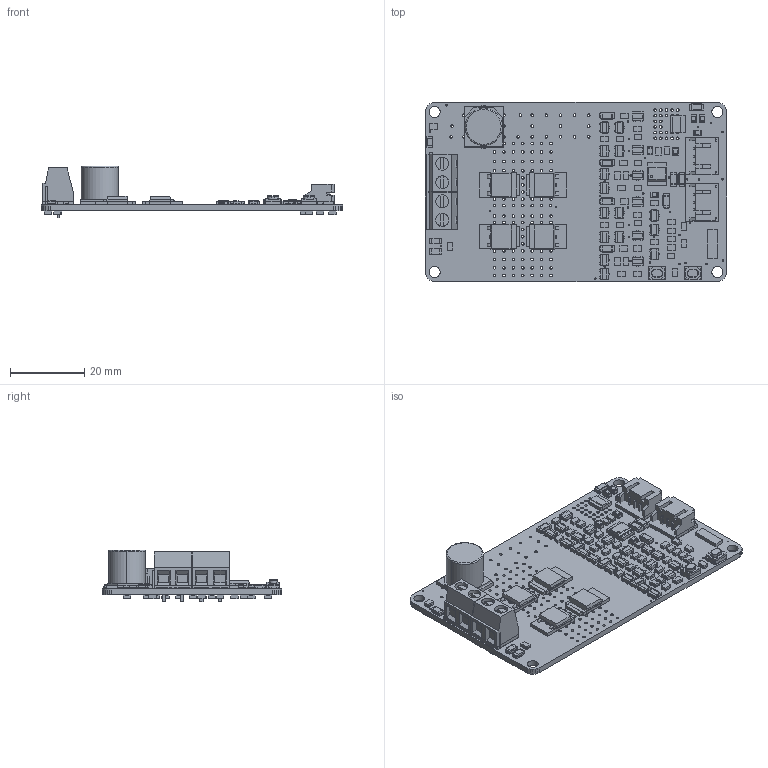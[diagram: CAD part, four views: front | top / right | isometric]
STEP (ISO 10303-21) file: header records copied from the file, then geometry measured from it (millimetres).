
FILE_DESCRIPTION (( 'STEP AP214' ), '1' );
FILE_NAME ('MD10-POT PCBA.STEP', '2018-12-14T08:54:41', ( '' ), ( '' ), 'SwSTEP 2.0', 'SolidWorks 2015', '' );
FILE_SCHEMA (( 'AUTOMOTIVE_DESIGN' ));
Length unit declared in the file: millimetre
Products named in the file (15): CHEMICON-J; SOD-123; MD10-POT PCB; MD10-POT PCBA; TERMINAL-KF127-2P_Black; S-SP-4N-KAN3246; TERMINAL-KF127-2P_Green; CAP-2012; RES-2012; SOT-89; SOIC-08N; S-CN-2022PR-03; SOT-23; DPAK; LED-3216
Assembly tree (88 placements, depth 2):
  MD10-POT PCBA
    MD10-POT PCB
    DPAK  x4
    LED-3216  x3
    TERMINAL-KF127-2P_Black
    TERMINAL-KF127-2P_Green
    RES-2012  x36
    SOD-123  x8
    CHEMICON-J
    SOIC-08N
    SOT-23  x21
    CAP-2012  x6
    SOT-89
    S-SP-4N-KAN3246  x2
    S-CN-2022PR-03  x2
Bounding box: 81.28 x 48.26 x 14 mm (x, y, z)
Volume: 10559 mm3; surface area: 17164.5 mm2
Topology: 217 solids, 217 shells, 4811 faces, 12015 edges, 7604 vertices
Faces by surface type: plane 3340, cylinder 1330, bspline 135, torus 6
Entity records: 81902 total; most frequent: CARTESIAN_POINT 11983, DIRECTION 11447, ORIENTED_EDGE 10852, EDGE_CURVE 5426, AXIS2_PLACEMENT_3D 3852, LINE 3743, VECTOR 3743, VERTEX_POINT 3556
